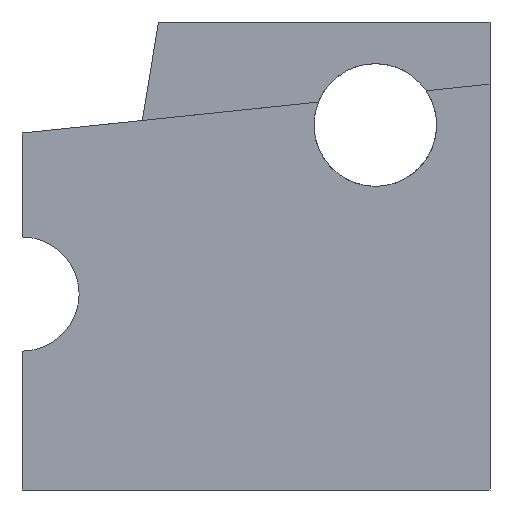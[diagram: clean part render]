
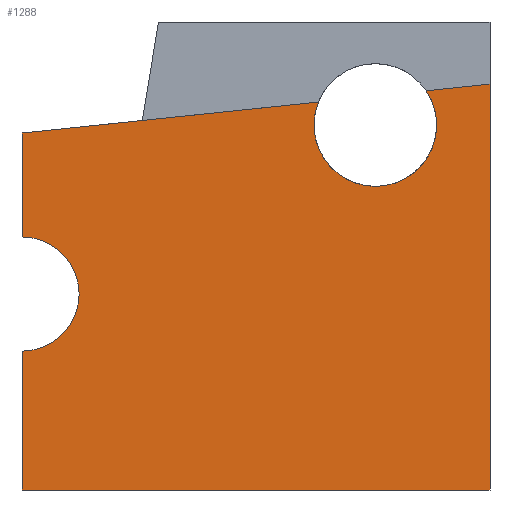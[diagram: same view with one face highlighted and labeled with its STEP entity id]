
A CAD part, front view. The second image highlights one B-rep face of the part: STEP entity #1288.
In plain terms, the highlighted planar face has unit normal (0, -1, 0).
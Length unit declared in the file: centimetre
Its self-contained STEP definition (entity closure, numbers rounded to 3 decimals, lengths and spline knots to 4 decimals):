
#47 = CARTESIAN_POINT ( 'NONE',  ( 0., 0., 0. ) ) ;
#55 = VERTEX_POINT ( 'NONE', #1276 ) ;
#68 = ORIENTED_EDGE ( 'NONE', *, *, #292, .F. ) ;
#85 = CARTESIAN_POINT ( 'NONE',  ( 754.9696, 0., 779.9072 ) ) ;
#88 = EDGE_CURVE ( 'NONE', #169, #744, #951, .T. ) ;
#94 = LINE ( 'NONE', #347, #1267 ) ;
#100 = VERTEX_POINT ( 'NONE', #468 ) ;
#104 = DIRECTION ( 'NONE',  ( 0., 0., 1. ) ) ;
#157 = EDGE_CURVE ( 'NONE', #55, #1115, #1394, .T. ) ;
#161 = VERTEX_POINT ( 'NONE', #249 ) ;
#169 = VERTEX_POINT ( 'NONE', #234 ) ;
#175 = VECTOR ( 'NONE', #1455, 100. ) ;
#180 = CARTESIAN_POINT ( 'NONE',  ( 1000., 0., 867.2591 ) ) ;
#206 = CARTESIAN_POINT ( 'NONE',  ( 0., 0., 418.7126 ) ) ;
#218 = CARTESIAN_POINT ( 'NONE',  ( 0., 0., 1000. ) ) ;
#234 = CARTESIAN_POINT ( 'NONE',  ( 0., 0., 540.7145 ) ) ;
#249 = CARTESIAN_POINT ( 'NONE',  ( 754.9696, 0., 648.7699 ) ) ;
#267 = CARTESIAN_POINT ( 'NONE',  ( 754.9696, 0., 779.9072 ) ) ;
#292 = EDGE_CURVE ( 'NONE', #1115, #544, #751, .T. ) ;
#327 = LINE ( 'NONE', #1149, #417 ) ;
#329 = ORIENTED_EDGE ( 'NONE', *, *, #970, .F. ) ;
#347 = CARTESIAN_POINT ( 'NONE',  ( 0., 0., 1000. ) ) ;
#351 = CARTESIAN_POINT ( 'NONE',  ( 1000., 0., 867.2591 ) ) ;
#392 = CARTESIAN_POINT ( 'NONE',  ( 633.3561, 0., 828.9699 ) ) ;
#414 = VECTOR ( 'NONE', #1206, 100. ) ;
#417 = VECTOR ( 'NONE', #445, 100. ) ;
#431 = CARTESIAN_POINT ( 'NONE',  ( 0., 0., 1000. ) ) ;
#445 = DIRECTION ( 'NONE',  ( 0.995, 0., 0.104 ) ) ;
#465 = VERTEX_POINT ( 'NONE', #392 ) ;
#468 = CARTESIAN_POINT ( 'NONE',  ( 0., 0., 0. ) ) ;
#524 = ORIENTED_EDGE ( 'NONE', *, *, #549, .F. ) ;
#544 = VERTEX_POINT ( 'NONE', #1141 ) ;
#549 = EDGE_CURVE ( 'NONE', #465, #161, #1348, .T. ) ;
#556 = DIRECTION ( 'NONE',  ( 0., -1., 0. ) ) ;
#571 = CIRCLE ( 'NONE', #594, 131.1373 ) ;
#594 = AXIS2_PLACEMENT_3D ( 'NONE', #267, #1185, #1074 ) ;
#595 = AXIS2_PLACEMENT_3D ( 'NONE', #206, #1373, #1359 ) ;
#612 = ORIENTED_EDGE ( 'NONE', *, *, #825, .T. ) ;
#618 = AXIS2_PLACEMENT_3D ( 'NONE', #218, #1160, #104 ) ;
#627 = VERTEX_POINT ( 'NONE', #875 ) ;
#630 = LINE ( 'NONE', #47, #175 ) ;
#686 = DIRECTION ( 'NONE',  ( 0., 0., -1. ) ) ;
#726 = ORIENTED_EDGE ( 'NONE', *, *, #157, .F. ) ;
#744 = VERTEX_POINT ( 'NONE', #1453 ) ;
#751 = LINE ( 'NONE', #997, #414 ) ;
#758 = AXIS2_PLACEMENT_3D ( 'NONE', #85, #556, #905 ) ;
#763 = VECTOR ( 'NONE', #1477, 100. ) ;
#794 = PLANE ( 'NONE',  #618 ) ;
#816 = EDGE_CURVE ( 'NONE', #627, #465, #327, .T. ) ;
#825 = EDGE_CURVE ( 'NONE', #627, #169, #94, .T. ) ;
#875 = CARTESIAN_POINT ( 'NONE',  ( 0., 0., 762.8273 ) ) ;
#901 = ORIENTED_EDGE ( 'NONE', *, *, #1308, .T. ) ;
#905 = DIRECTION ( 'NONE',  ( 0., 0., -1. ) ) ;
#951 = CIRCLE ( 'NONE', #595, 122.0019 ) ;
#970 = EDGE_CURVE ( 'NONE', #161, #55, #571, .T. ) ;
#997 = CARTESIAN_POINT ( 'NONE',  ( 1000., 0., 1000. ) ) ;
#1057 = VECTOR ( 'NONE', #1417, 100. ) ;
#1074 = DIRECTION ( 'NONE',  ( 0., 0., -1. ) ) ;
#1103 = ORIENTED_EDGE ( 'NONE', *, *, #816, .F. ) ;
#1115 = VERTEX_POINT ( 'NONE', #180 ) ;
#1118 = ORIENTED_EDGE ( 'NONE', *, *, #88, .T. ) ;
#1141 = CARTESIAN_POINT ( 'NONE',  ( 1000., 0., 0. ) ) ;
#1149 = CARTESIAN_POINT ( 'NONE',  ( 1000., 0., 867.2591 ) ) ;
#1160 = DIRECTION ( 'NONE',  ( 0., 1., 0. ) ) ;
#1185 = DIRECTION ( 'NONE',  ( 0., -1., 0. ) ) ;
#1206 = DIRECTION ( 'NONE',  ( 0., 0., -1. ) ) ;
#1251 = EDGE_LOOP ( 'NONE', ( #612, #1118, #1415, #901, #68, #726, #329, #524, #1103 ) ) ;
#1267 = VECTOR ( 'NONE', #686, 100. ) ;
#1276 = CARTESIAN_POINT ( 'NONE',  ( 863.8223, 0., 853.0378 ) ) ;
#1288 = ADVANCED_FACE ( 'NONE', ( #1411 ), #794, .F. ) ;
#1291 = EDGE_CURVE ( 'NONE', #744, #100, #1499, .T. ) ;
#1308 = EDGE_CURVE ( 'NONE', #100, #544, #630, .T. ) ;
#1348 = CIRCLE ( 'NONE', #758, 131.1373 ) ;
#1359 = DIRECTION ( 'NONE',  ( 0., 0., 1. ) ) ;
#1373 = DIRECTION ( 'NONE',  ( 0., 1., 0. ) ) ;
#1394 = LINE ( 'NONE', #351, #1057 ) ;
#1411 = FACE_OUTER_BOUND ( 'NONE', #1251, .T. ) ;
#1415 = ORIENTED_EDGE ( 'NONE', *, *, #1291, .T. ) ;
#1417 = DIRECTION ( 'NONE',  ( 0.995, 0., 0.104 ) ) ;
#1453 = CARTESIAN_POINT ( 'NONE',  ( 0., 0., 296.7108 ) ) ;
#1455 = DIRECTION ( 'NONE',  ( 1., 0., 0. ) ) ;
#1477 = DIRECTION ( 'NONE',  ( 0., 0., -1. ) ) ;
#1499 = LINE ( 'NONE', #431, #763 ) ;
